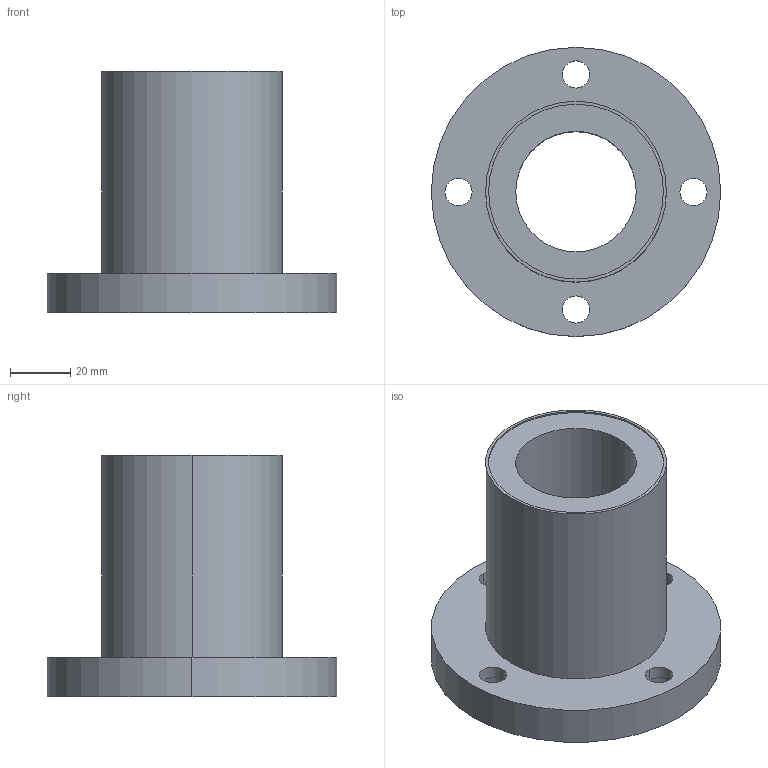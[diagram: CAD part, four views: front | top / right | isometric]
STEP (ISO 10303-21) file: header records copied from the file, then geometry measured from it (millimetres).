
FILE_DESCRIPTION((''),'2;1');
FILE_NAME('C:\Documents and Settings\ｿﾀﾀ蠑ｷ1\ｹﾙﾅﾁ ﾈｭｸ饅\ｺﾎﾇｰﾆﾄﾀﾏ\ﾁｦﾇｰ\LMF__UU\LMF40UU.stp','2005-06-15T09:39:13',('ｿﾀﾀ蠑ｷ1'),(''),'Autodesk Inventor 9','Autodesk Inventor 9','');
FILE_SCHEMA(('AUTOMOTIVE_DESIGN { 1 0 10303 214 1 1 1 1 }'));
Length unit declared in the file: millimetre
Products named in the file (1): LMF__
Bounding box: 96 x 96 x 80 mm (x, y, z)
Volume: 175009.3 mm3; surface area: 40132 mm2
Topology: 1 solids, 1 shells, 38 faces, 84 edges, 56 vertices
Faces by surface type: cylinder 28, plane 10
Entity records: 1127 total; most frequent: DIRECTION 218, CARTESIAN_POINT 179, ORIENTED_EDGE 168, AXIS2_PLACEMENT_3D 95, EDGE_CURVE 84, VERTEX_POINT 56, CIRCLE 56, EDGE_LOOP 56
